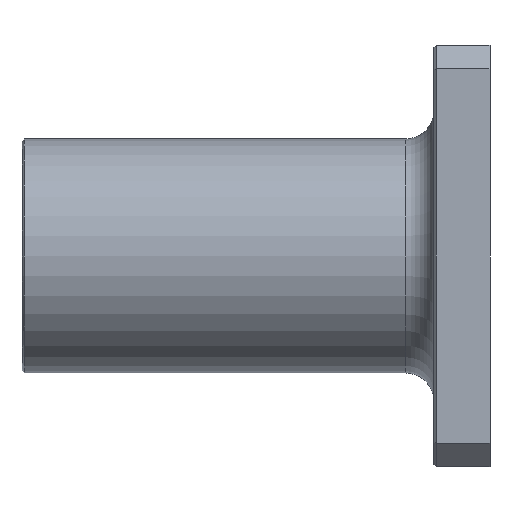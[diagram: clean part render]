
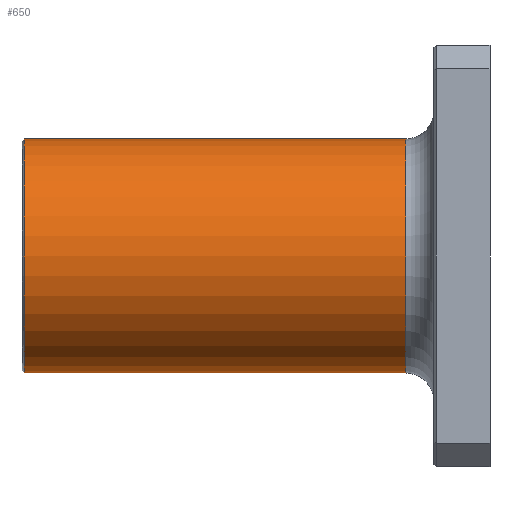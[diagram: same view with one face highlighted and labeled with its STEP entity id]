
A CAD part, left-side view. The second image highlights one B-rep face of the part: STEP entity #650.
In plain terms, the highlighted cylindrical face has radius 12.5 mm (diameter 25 mm), a partial arc.
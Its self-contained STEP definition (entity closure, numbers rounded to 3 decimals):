
#47 = CARTESIAN_POINT ( 'NONE',  ( 0., 49.75, 12.5 ) ) ;
#85 = CYLINDRICAL_SURFACE ( 'NONE', #1207, 12.5 ) ;
#114 = DIRECTION ( 'NONE',  ( 0., 0., -1. ) ) ;
#168 = DIRECTION ( 'NONE',  ( 0., -1., 0. ) ) ;
#193 = VERTEX_POINT ( 'NONE', #47 ) ;
#194 = EDGE_CURVE ( 'NONE', #1442, #246, #933, .T. ) ;
#246 = VERTEX_POINT ( 'NONE', #961 ) ;
#250 = FACE_OUTER_BOUND ( 'NONE', #1067, .T. ) ;
#316 = EDGE_CURVE ( 'NONE', #193, #1442, #831, .T. ) ;
#350 = DIRECTION ( 'NONE',  ( 0., -1., 0. ) ) ;
#404 = CARTESIAN_POINT ( 'NONE',  ( 0., 49.75, 0. ) ) ;
#524 = DIRECTION ( 'NONE',  ( 0., 0., -1. ) ) ;
#525 = DIRECTION ( 'NONE',  ( 0., -1., 0. ) ) ;
#558 = CARTESIAN_POINT ( 'NONE',  ( 0., 50., 0. ) ) ;
#633 = DIRECTION ( 'NONE',  ( 0., 1., 0. ) ) ;
#650 = ADVANCED_FACE ( 'NONE', ( #250 ), #85, .T. ) ;
#660 = DIRECTION ( 'NONE',  ( 0., -1., 0. ) ) ;
#684 = AXIS2_PLACEMENT_3D ( 'NONE', #404, #525, #742 ) ;
#690 = ORIENTED_EDGE ( 'NONE', *, *, #1407, .F. ) ;
#739 = CARTESIAN_POINT ( 'NONE',  ( 0., 9., 0. ) ) ;
#742 = DIRECTION ( 'NONE',  ( 0., 0., -1. ) ) ;
#812 = CARTESIAN_POINT ( 'NONE',  ( 0., 50., 12.5 ) ) ;
#817 = EDGE_CURVE ( 'NONE', #246, #1303, #1288, .T. ) ;
#831 = CIRCLE ( 'NONE', #684, 12.5 ) ;
#933 = LINE ( 'NONE', #1158, #1010 ) ;
#959 = VECTOR ( 'NONE', #350, 1000. ) ;
#961 = CARTESIAN_POINT ( 'NONE',  ( 0., 9., -12.5 ) ) ;
#1010 = VECTOR ( 'NONE', #168, 1000. ) ;
#1019 = CARTESIAN_POINT ( 'NONE',  ( 0., 9., 12.5 ) ) ;
#1049 = AXIS2_PLACEMENT_3D ( 'NONE', #739, #633, #524 ) ;
#1058 = ORIENTED_EDGE ( 'NONE', *, *, #316, .T. ) ;
#1065 = LINE ( 'NONE', #812, #959 ) ;
#1067 = EDGE_LOOP ( 'NONE', ( #690, #1058, #1141, #1225 ) ) ;
#1141 = ORIENTED_EDGE ( 'NONE', *, *, #194, .T. ) ;
#1158 = CARTESIAN_POINT ( 'NONE',  ( 0., 50., -12.5 ) ) ;
#1207 = AXIS2_PLACEMENT_3D ( 'NONE', #558, #660, #114 ) ;
#1225 = ORIENTED_EDGE ( 'NONE', *, *, #817, .T. ) ;
#1288 = CIRCLE ( 'NONE', #1049, 12.5 ) ;
#1303 = VERTEX_POINT ( 'NONE', #1019 ) ;
#1407 = EDGE_CURVE ( 'NONE', #193, #1303, #1065, .T. ) ;
#1442 = VERTEX_POINT ( 'NONE', #1447 ) ;
#1447 = CARTESIAN_POINT ( 'NONE',  ( 0., 49.75, -12.5 ) ) ;
